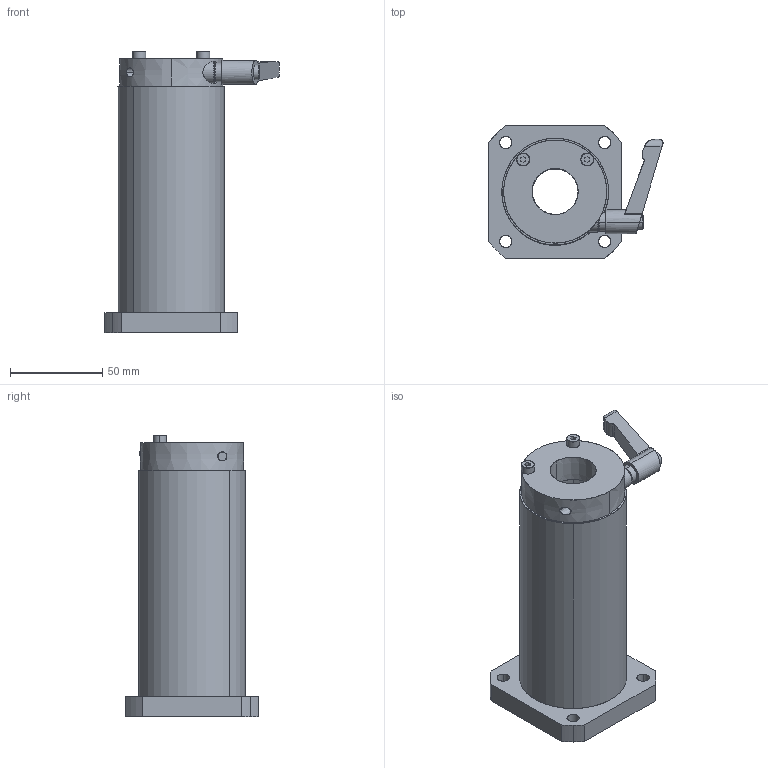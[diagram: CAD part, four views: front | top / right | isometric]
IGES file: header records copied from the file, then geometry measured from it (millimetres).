
Start section: SolidWorks IGES file using analytic representation for surfaces
Global section: file name: C:\Users\yamad\Desktop\IGES\LFWK25-CS.IGS; native system: SolidWorks 2019; preprocessor: SolidWorks 2019; author: yamad; date: 230626.165211; units: millimetre
Bounding box: 94.6 x 72 x 153 mm (x, y, z)
Surface area: 64996.9 mm2 (no closed solid volume)
Topology: 0 solids, 0 shells, 198 faces, 4668 edges, 4668 vertices
Faces by surface type: bspline 108, revolution 90
